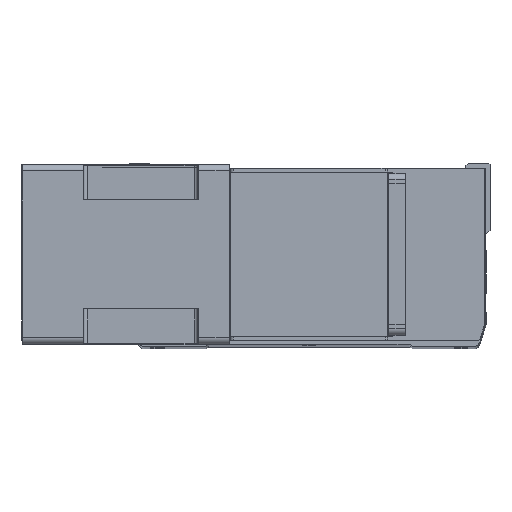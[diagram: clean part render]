
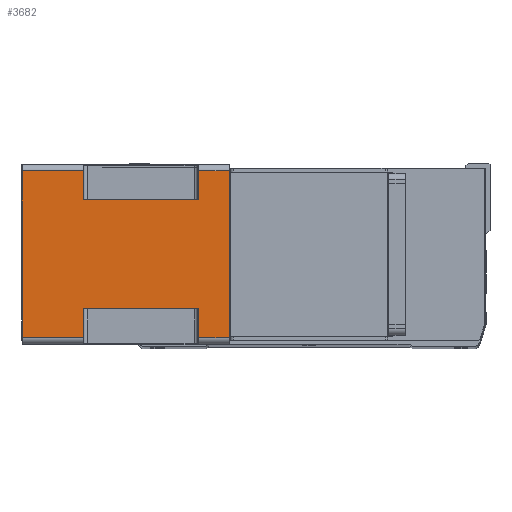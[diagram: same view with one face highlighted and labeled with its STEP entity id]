
A CAD part, top view. The second image highlights one B-rep face of the part: STEP entity #3682.
In plain terms, the highlighted planar face has unit normal (0, 0, 1) as drawn and (-1, 0, 0) by its records, which use the part's own axes.
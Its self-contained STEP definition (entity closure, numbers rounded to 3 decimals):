
#116 = VERTEX_POINT ( 'NONE', #32862 ) ;
#242 = CARTESIAN_POINT ( 'NONE',  ( -71., -43., -24.5 ) ) ;
#791 = CARTESIAN_POINT ( 'NONE',  ( -71., -43., -115.5 ) ) ;
#1257 = LINE ( 'NONE', #29148, #6615 ) ;
#1987 = EDGE_CURVE ( 'NONE', #12929, #21067, #8979, .T. ) ;
#3484 = LINE ( 'NONE', #6992, #15163 ) ;
#3682 = ADVANCED_FACE ( 'NONE', ( #18308 ), #20883, .T. ) ;
#3809 = DIRECTION ( 'NONE',  ( -1., 0., 0. ) ) ;
#4174 = ORIENTED_EDGE ( 'NONE', *, *, #21509, .F. ) ;
#4238 = CARTESIAN_POINT ( 'NONE',  ( -71., -66., -164. ) ) ;
#4300 = LINE ( 'NONE', #4954, #12774 ) ;
#4780 = ORIENTED_EDGE ( 'NONE', *, *, #4840, .T. ) ;
#4840 = EDGE_CURVE ( 'NONE', #12929, #19589, #4300, .T. ) ;
#4954 = CARTESIAN_POINT ( 'NONE',  ( -71., -66., -24.5 ) ) ;
#6615 = VECTOR ( 'NONE', #19359, 1000. ) ;
#6924 = EDGE_CURVE ( 'NONE', #26353, #116, #7150, .T. ) ;
#6992 = CARTESIAN_POINT ( 'NONE',  ( -71., -66., -164. ) ) ;
#6996 = CARTESIAN_POINT ( 'NONE',  ( -71., -66., -115.5 ) ) ;
#7150 = LINE ( 'NONE', #33482, #11891 ) ;
#7878 = VECTOR ( 'NONE', #18300, 1000. ) ;
#7967 = ORIENTED_EDGE ( 'NONE', *, *, #9549, .F. ) ;
#8339 = CARTESIAN_POINT ( 'NONE',  ( -71., 43., -164. ) ) ;
#8979 = LINE ( 'NONE', #23172, #34975 ) ;
#9549 = EDGE_CURVE ( 'NONE', #42571, #11900, #14219, .T. ) ;
#9780 = VERTEX_POINT ( 'NONE', #34454 ) ;
#10015 = ORIENTED_EDGE ( 'NONE', *, *, #31811, .T. ) ;
#10488 = CARTESIAN_POINT ( 'NONE',  ( -71., -43., -115.5 ) ) ;
#10798 = DIRECTION ( 'NONE',  ( 0., 0., -1. ) ) ;
#11891 = VECTOR ( 'NONE', #23728, 1000. ) ;
#11900 = VERTEX_POINT ( 'NONE', #25185 ) ;
#12774 = VECTOR ( 'NONE', #38913, 1000. ) ;
#12929 = VERTEX_POINT ( 'NONE', #242 ) ;
#13082 = AXIS2_PLACEMENT_3D ( 'NONE', #4238, #3809, #27987 ) ;
#13400 = ORIENTED_EDGE ( 'NONE', *, *, #19767, .T. ) ;
#13979 = EDGE_CURVE ( 'NONE', #22465, #19958, #34648, .T. ) ;
#14219 = LINE ( 'NONE', #21469, #31199 ) ;
#14266 = ORIENTED_EDGE ( 'NONE', *, *, #13979, .F. ) ;
#15163 = VECTOR ( 'NONE', #33806, 1000. ) ;
#15175 = DIRECTION ( 'NONE',  ( 0., 0., 1. ) ) ;
#15227 = ORIENTED_EDGE ( 'NONE', *, *, #39309, .T. ) ;
#15374 = VECTOR ( 'NONE', #38868, 1000. ) ;
#17614 = CARTESIAN_POINT ( 'NONE',  ( -71., 43., -24.5 ) ) ;
#18148 = VERTEX_POINT ( 'NONE', #29317 ) ;
#18300 = DIRECTION ( 'NONE',  ( 0., 1., 0. ) ) ;
#18308 = FACE_OUTER_BOUND ( 'NONE', #31856, .T. ) ;
#18830 = VECTOR ( 'NONE', #33321, 1000. ) ;
#19359 = DIRECTION ( 'NONE',  ( 0., -1., 0. ) ) ;
#19502 = CARTESIAN_POINT ( 'NONE',  ( -71., 66., 0. ) ) ;
#19589 = VERTEX_POINT ( 'NONE', #29751 ) ;
#19767 = EDGE_CURVE ( 'NONE', #9780, #11900, #22454, .T. ) ;
#19774 = CARTESIAN_POINT ( 'NONE',  ( -71., -66., -164. ) ) ;
#19958 = VERTEX_POINT ( 'NONE', #19502 ) ;
#20883 = PLANE ( 'NONE',  #13082 ) ;
#21067 = VERTEX_POINT ( 'NONE', #10488 ) ;
#21134 = ORIENTED_EDGE ( 'NONE', *, *, #6924, .T. ) ;
#21469 = CARTESIAN_POINT ( 'NONE',  ( -71., 66., -164. ) ) ;
#21509 = EDGE_CURVE ( 'NONE', #9780, #43555, #33400, .T. ) ;
#21975 = EDGE_CURVE ( 'NONE', #116, #21067, #42315, .T. ) ;
#22454 = LINE ( 'NONE', #6996, #32496 ) ;
#22465 = VERTEX_POINT ( 'NONE', #34283 ) ;
#22935 = EDGE_CURVE ( 'NONE', #42571, #26353, #3484, .T. ) ;
#23172 = CARTESIAN_POINT ( 'NONE',  ( -71., -43., -164. ) ) ;
#23418 = EDGE_CURVE ( 'NONE', #19958, #18148, #24666, .T. ) ;
#23728 = DIRECTION ( 'NONE',  ( 0., 0., 1. ) ) ;
#24112 = CARTESIAN_POINT ( 'NONE',  ( -71., -66., -164. ) ) ;
#24666 = LINE ( 'NONE', #40104, #18830 ) ;
#25144 = ORIENTED_EDGE ( 'NONE', *, *, #22935, .T. ) ;
#25185 = CARTESIAN_POINT ( 'NONE',  ( -71., 66., -115.5 ) ) ;
#26353 = VERTEX_POINT ( 'NONE', #19774 ) ;
#27987 = DIRECTION ( 'NONE',  ( 0., -1., 0. ) ) ;
#28855 = DIRECTION ( 'NONE',  ( 0., 0., 1. ) ) ;
#29148 = CARTESIAN_POINT ( 'NONE',  ( -71., 43., -24.5 ) ) ;
#29317 = CARTESIAN_POINT ( 'NONE',  ( -71., -66., 0. ) ) ;
#29751 = CARTESIAN_POINT ( 'NONE',  ( -71., -66., -24.5 ) ) ;
#29959 = LINE ( 'NONE', #24112, #37914 ) ;
#31199 = VECTOR ( 'NONE', #28855, 1000. ) ;
#31811 = EDGE_CURVE ( 'NONE', #22465, #43555, #1257, .T. ) ;
#31856 = EDGE_LOOP ( 'NONE', ( #21134, #42929, #36751, #4780, #15227, #42417, #14266, #10015, #4174, #13400, #7967, #25144 ) ) ;
#32496 = VECTOR ( 'NONE', #40900, 1000. ) ;
#32862 = CARTESIAN_POINT ( 'NONE',  ( -71., -66., -115.5 ) ) ;
#33321 = DIRECTION ( 'NONE',  ( 0., -1., 0. ) ) ;
#33400 = LINE ( 'NONE', #8339, #15374 ) ;
#33482 = CARTESIAN_POINT ( 'NONE',  ( -71., -66., -164. ) ) ;
#33806 = DIRECTION ( 'NONE',  ( 0., -1., 0. ) ) ;
#34283 = CARTESIAN_POINT ( 'NONE',  ( -71., 66., -24.5 ) ) ;
#34454 = CARTESIAN_POINT ( 'NONE',  ( -71., 43., -115.5 ) ) ;
#34648 = LINE ( 'NONE', #36685, #39410 ) ;
#34975 = VECTOR ( 'NONE', #10798, 1000. ) ;
#36539 = DIRECTION ( 'NONE',  ( 0., 0., 1. ) ) ;
#36685 = CARTESIAN_POINT ( 'NONE',  ( -71., 66., -164. ) ) ;
#36751 = ORIENTED_EDGE ( 'NONE', *, *, #1987, .F. ) ;
#37914 = VECTOR ( 'NONE', #15175, 1000. ) ;
#38868 = DIRECTION ( 'NONE',  ( 0., 0., 1. ) ) ;
#38913 = DIRECTION ( 'NONE',  ( 0., -1., 0. ) ) ;
#39309 = EDGE_CURVE ( 'NONE', #19589, #18148, #29959, .T. ) ;
#39379 = CARTESIAN_POINT ( 'NONE',  ( -71., 66., -164. ) ) ;
#39410 = VECTOR ( 'NONE', #36539, 1000. ) ;
#40104 = CARTESIAN_POINT ( 'NONE',  ( -71., -66., 0. ) ) ;
#40900 = DIRECTION ( 'NONE',  ( 0., 1., 0. ) ) ;
#42315 = LINE ( 'NONE', #791, #7878 ) ;
#42417 = ORIENTED_EDGE ( 'NONE', *, *, #23418, .F. ) ;
#42571 = VERTEX_POINT ( 'NONE', #39379 ) ;
#42929 = ORIENTED_EDGE ( 'NONE', *, *, #21975, .T. ) ;
#43555 = VERTEX_POINT ( 'NONE', #17614 ) ;
